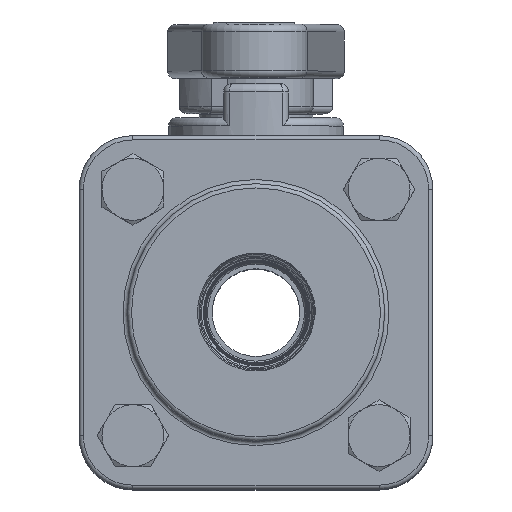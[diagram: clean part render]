
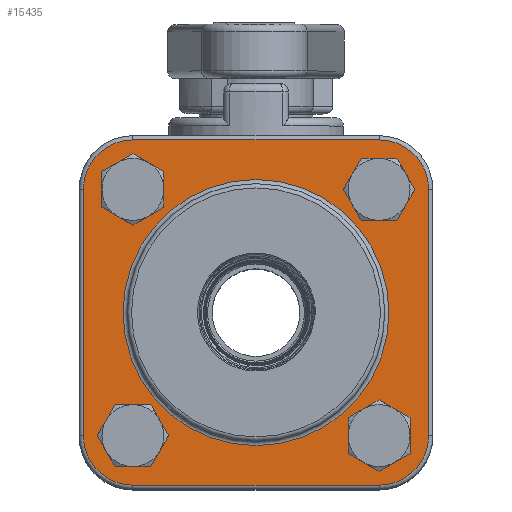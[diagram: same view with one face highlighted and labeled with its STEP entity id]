
A CAD part, top view. The second image highlights one B-rep face of the part: STEP entity #15435.
In plain terms, the highlighted planar face has unit normal (0, 0, 1) as drawn and (0, 0, -1) by its records, which use the part's own axes.
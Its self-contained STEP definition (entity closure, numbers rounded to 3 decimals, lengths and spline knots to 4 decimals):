
#1972=PLANE('',#7809);
#2203=VECTOR('',#5791,1.);
#2205=VECTOR('',#5813,1.);
#2208=VECTOR('',#5820,1.);
#2210=VECTOR('',#5838,1.);
#2918=LINE('',#16967,#2203);
#2920=LINE('',#16988,#2205);
#2923=LINE('',#16995,#2208);
#2925=LINE('',#17010,#2210);
#4363=VERTEX_POINT('',#16966);
#4364=VERTEX_POINT('',#16968);
#4367=VERTEX_POINT('',#16975);
#4368=VERTEX_POINT('',#16980);
#4371=VERTEX_POINT('',#16987);
#4372=VERTEX_POINT('',#16992);
#4375=VERTEX_POINT('',#16999);
#4376=VERTEX_POINT('',#17004);
#4383=VERTEX_POINT('',#17031);
#4384=VERTEX_POINT('',#17033);
#4385=VERTEX_POINT('',#17035);
#4386=VERTEX_POINT('',#17037);
#4387=VERTEX_POINT('',#17039);
#5791=DIRECTION('',(0.,-1.,0.));
#5798=DIRECTION('',(0.,0.,1.));
#5799=DIRECTION('',(-0.629,0.629,0.));
#5807=DIRECTION('',(0.,0.,1.));
#5808=DIRECTION('',(-0.629,-0.629,0.));
#5813=DIRECTION('',(-1.,0.,0.));
#5820=DIRECTION('',(1.,0.,0.));
#5824=DIRECTION('',(0.,0.,1.));
#5825=DIRECTION('',(0.629,0.629,0.));
#5833=DIRECTION('',(0.,0.,1.));
#5834=DIRECTION('',(0.629,-0.629,0.));
#5838=DIRECTION('',(0.,1.,0.));
#5856=DIRECTION('',(0.,0.,1.));
#5857=DIRECTION('',(0.,0.,-1.));
#5858=DIRECTION('',(2.388,0.,0.));
#5859=DIRECTION('',(0.,0.,1.));
#5860=DIRECTION('',(0.33,0.,0.));
#5861=DIRECTION('',(0.,0.,1.));
#5862=DIRECTION('',(0.33,0.,0.));
#5863=DIRECTION('',(0.,0.,1.));
#5864=DIRECTION('',(0.33,0.,0.));
#5865=DIRECTION('',(0.,0.,1.));
#5866=DIRECTION('',(0.33,0.,0.));
#7784=AXIS2_PLACEMENT_3D('',#16976,#5798,#5799);
#7789=AXIS2_PLACEMENT_3D('',#16983,#5807,#5808);
#7796=AXIS2_PLACEMENT_3D('',#17000,#5824,#5825);
#7801=AXIS2_PLACEMENT_3D('',#17007,#5833,#5834);
#7809=AXIS2_PLACEMENT_3D('',#17029,#5856,$);
#7810=AXIS2_PLACEMENT_3D('',#17030,#5857,#5858);
#7811=AXIS2_PLACEMENT_3D('',#17032,#5859,#5860);
#7812=AXIS2_PLACEMENT_3D('',#17034,#5861,#5862);
#7813=AXIS2_PLACEMENT_3D('',#17036,#5863,#5864);
#7814=AXIS2_PLACEMENT_3D('',#17038,#5865,#5866);
#8560=CIRCLE('',#7784,0.889);
#8564=CIRCLE('',#7789,0.889);
#8568=CIRCLE('',#7796,0.889);
#8572=CIRCLE('',#7801,0.889);
#8575=CIRCLE('',#7810,2.3876);
#8576=CIRCLE('',#7811,0.3302);
#8577=CIRCLE('',#7812,0.3302);
#8578=CIRCLE('',#7813,0.3302);
#8579=CIRCLE('',#7814,0.3302);
#8987=EDGE_CURVE('',#4363,#4364,#2918,.T.);
#8991=EDGE_CURVE('',#4367,#4363,#8560,.T.);
#8995=EDGE_CURVE('',#4364,#4368,#8564,.T.);
#8997=EDGE_CURVE('',#4371,#4367,#2920,.T.);
#9001=EDGE_CURVE('',#4368,#4372,#2923,.T.);
#9003=EDGE_CURVE('',#4375,#4371,#8568,.T.);
#9007=EDGE_CURVE('',#4372,#4376,#8572,.T.);
#9009=EDGE_CURVE('',#4376,#4375,#2925,.T.);
#9019=EDGE_CURVE('',#4383,#4383,#8575,.T.);
#9020=EDGE_CURVE('',#4384,#4384,#8576,.T.);
#9021=EDGE_CURVE('',#4385,#4385,#8577,.T.);
#9022=EDGE_CURVE('',#4386,#4386,#8578,.T.);
#9023=EDGE_CURVE('',#4387,#4387,#8579,.T.);
#10934=ORIENTED_EDGE('',*,*,#9019,.F.);
#10935=ORIENTED_EDGE('',*,*,#9020,.T.);
#10936=ORIENTED_EDGE('',*,*,#9021,.T.);
#10937=ORIENTED_EDGE('',*,*,#9022,.T.);
#10938=ORIENTED_EDGE('',*,*,#9023,.T.);
#10939=ORIENTED_EDGE('',*,*,#8987,.F.);
#10940=ORIENTED_EDGE('',*,*,#8991,.F.);
#10941=ORIENTED_EDGE('',*,*,#8997,.F.);
#10942=ORIENTED_EDGE('',*,*,#9003,.F.);
#10943=ORIENTED_EDGE('',*,*,#9009,.F.);
#10944=ORIENTED_EDGE('',*,*,#9007,.F.);
#10945=ORIENTED_EDGE('',*,*,#9001,.F.);
#10946=ORIENTED_EDGE('',*,*,#8995,.F.);
#13960=EDGE_LOOP('',(#10934));
#13961=EDGE_LOOP('',(#10935));
#13962=EDGE_LOOP('',(#10936));
#13963=EDGE_LOOP('',(#10937));
#13964=EDGE_LOOP('',(#10938));
#13965=EDGE_LOOP('',(#10939,#10940,#10941,#10942,#10943,#10944,#10945,#10946));
#14717=FACE_BOUND('',#13960,.T.);
#14718=FACE_BOUND('',#13961,.T.);
#14719=FACE_BOUND('',#13962,.T.);
#14720=FACE_BOUND('',#13963,.T.);
#14721=FACE_BOUND('',#13964,.T.);
#14722=FACE_BOUND('',#13965,.T.);
#15435=ADVANCED_FACE('',(#14717,#14718,#14719,#14720,#14721,#14722),#1972,
 .F.);
#16966=CARTESIAN_POINT('',(-3.0988,2.2098,0.));
#16967=CARTESIAN_POINT('',(-3.0988,0.,0.));
#16968=CARTESIAN_POINT('',(-3.0988,-2.2098,0.));
#16975=CARTESIAN_POINT('',(-2.2098,3.0988,0.));
#16976=CARTESIAN_POINT('',(-2.2098,2.2098,0.));
#16980=CARTESIAN_POINT('',(-2.2098,-3.0988,0.));
#16983=CARTESIAN_POINT('',(-2.2098,-2.2098,0.));
#16987=CARTESIAN_POINT('',(2.2098,3.0988,0.));
#16988=CARTESIAN_POINT('',(0.,3.0988,0.));
#16992=CARTESIAN_POINT('',(2.2098,-3.0988,0.));
#16995=CARTESIAN_POINT('',(0.,-3.0988,0.));
#16999=CARTESIAN_POINT('',(3.0988,2.2098,0.));
#17000=CARTESIAN_POINT('',(2.2098,2.2098,0.));
#17004=CARTESIAN_POINT('',(3.0988,-2.2098,0.));
#17007=CARTESIAN_POINT('',(2.2098,-2.2098,0.));
#17010=CARTESIAN_POINT('',(3.0988,0.,0.));
#17029=CARTESIAN_POINT('',(0.,0.,0.));
#17030=CARTESIAN_POINT('',(0.,0.,0.));
#17031=CARTESIAN_POINT('',(-2.3876,0.,0.));
#17032=CARTESIAN_POINT('',(2.2098,-2.2098,0.));
#17033=CARTESIAN_POINT('',(2.54,-2.2098,0.));
#17034=CARTESIAN_POINT('',(2.2098,2.2098,0.));
#17035=CARTESIAN_POINT('',(2.54,2.2098,0.));
#17036=CARTESIAN_POINT('',(-2.2098,2.2098,0.));
#17037=CARTESIAN_POINT('',(-1.8796,2.2098,0.));
#17038=CARTESIAN_POINT('',(-2.2098,-2.2098,0.));
#17039=CARTESIAN_POINT('',(-1.8796,-2.2098,0.));
